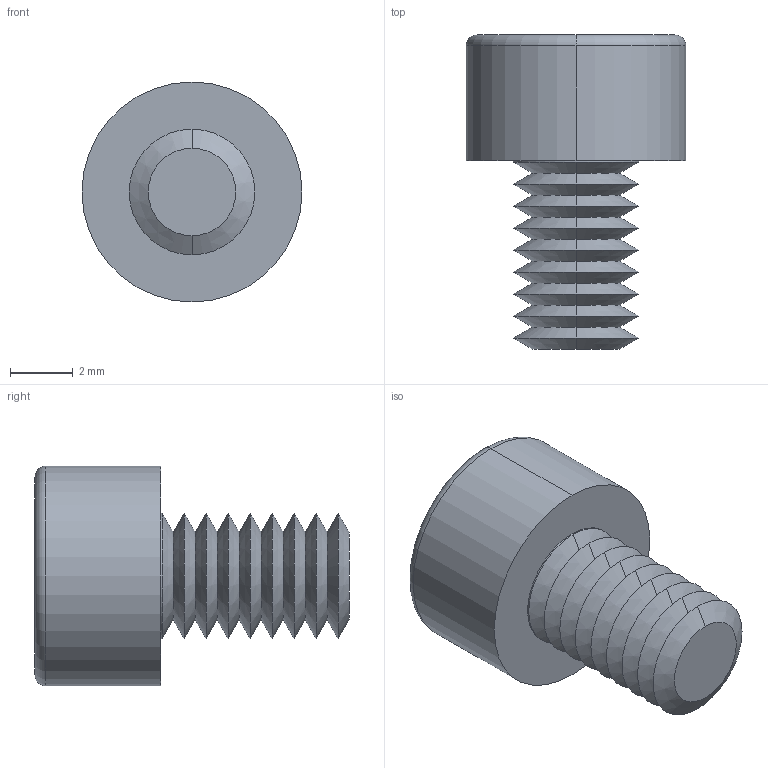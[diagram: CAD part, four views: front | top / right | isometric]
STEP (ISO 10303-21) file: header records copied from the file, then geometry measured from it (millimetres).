
FILE_DESCRIPTION (( 'STEP AP203' ), '1' );
FILE_NAME ('91N.040.0060.step', '2025-05-20T08:50:26', ( '' ), ( '' ), 'SwSTEP 2.0', 'SolidWorks 2019', '' );
FILE_SCHEMA (( 'CONFIG_CONTROL_DESIGN' ));
Length unit declared in the file: millimetre
Products named in the file (1): 91N.040.0060
Bounding box: 7 x 10 x 7 mm (x, y, z)
Volume: 182.9 mm3; surface area: 314.5 mm2
Topology: 1 solids, 1 shells, 64 faces, 127 edges, 65 vertices
Faces by surface type: cone 43, plane 15, cylinder 4, torus 2
Entity records: 1678 total; most frequent: DIRECTION 307, CARTESIAN_POINT 282, ORIENTED_EDGE 250, EDGE_CURVE 125, AXIS2_PLACEMENT_3D 124, EDGE_LOOP 66, VERTEX_POINT 65, FACE_OUTER_BOUND 64
